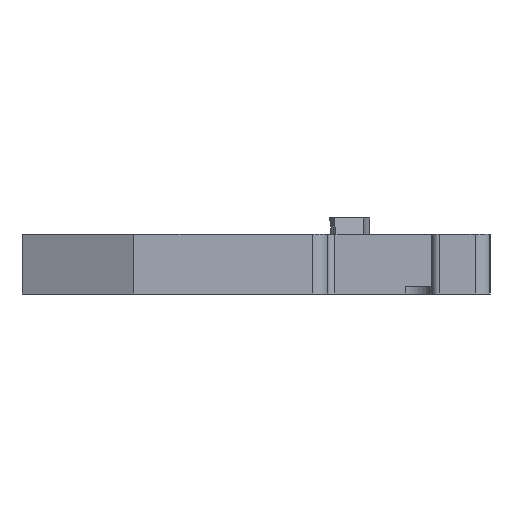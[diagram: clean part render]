
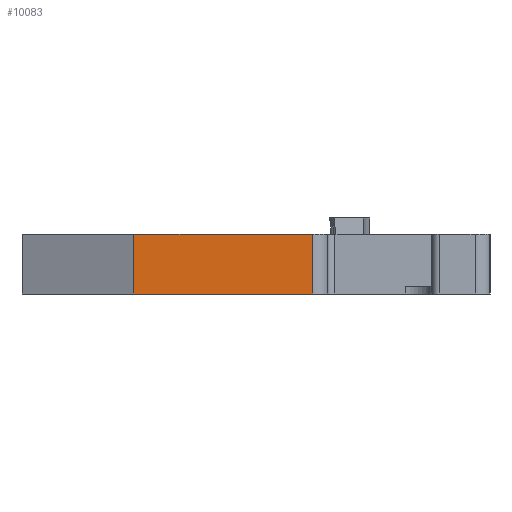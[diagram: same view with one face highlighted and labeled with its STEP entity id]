
A CAD part, left-side view. The second image highlights one B-rep face of the part: STEP entity #10083.
In plain terms, the highlighted planar face has unit normal (-1, 0, 0).
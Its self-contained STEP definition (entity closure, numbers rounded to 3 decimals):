
#1117 = LINE ( 'NONE', #34070, #18296 ) ;
#2324 = EDGE_LOOP ( 'NONE', ( #15613, #30309, #30946, #7164 ) ) ;
#3447 = DIRECTION ( 'NONE',  ( 0., -1., 0. ) ) ;
#7164 = ORIENTED_EDGE ( 'NONE', *, *, #16377, .T. ) ;
#10083 = ADVANCED_FACE ( 'NONE', ( #19576 ), #16533, .F. ) ;
#13043 = CARTESIAN_POINT ( 'NONE',  ( 10.027, 33.971, 42.359 ) ) ;
#14313 = CARTESIAN_POINT ( 'NONE',  ( 10.027, 45.971, 42.359 ) ) ;
#15613 = ORIENTED_EDGE ( 'NONE', *, *, #40474, .T. ) ;
#16377 = EDGE_CURVE ( 'NONE', #16741, #22257, #16717, .T. ) ;
#16533 = PLANE ( 'NONE',  #25921 ) ;
#16717 = LINE ( 'NONE', #38994, #36924 ) ;
#16741 = VERTEX_POINT ( 'NONE', #14313 ) ;
#18296 = VECTOR ( 'NONE', #37751, 1000. ) ;
#19576 = FACE_OUTER_BOUND ( 'NONE', #2324, .T. ) ;
#19708 = DIRECTION ( 'NONE',  ( 1., 0., 0. ) ) ;
#20678 = VECTOR ( 'NONE', #20809, 1000. ) ;
#20809 = DIRECTION ( 'NONE',  ( 0., -1., 0. ) ) ;
#21450 = VERTEX_POINT ( 'NONE', #13043 ) ;
#22257 = VERTEX_POINT ( 'NONE', #37855 ) ;
#22871 = DIRECTION ( 'NONE',  ( 0., 0., -1. ) ) ;
#23182 = LINE ( 'NONE', #25662, #29139 ) ;
#23550 = CARTESIAN_POINT ( 'NONE',  ( 10.027, 45.971, 42.359 ) ) ;
#24686 = CARTESIAN_POINT ( 'NONE',  ( 10.027, 33.971, 38.359 ) ) ;
#25662 = CARTESIAN_POINT ( 'NONE',  ( 10.027, 45.971, 38.359 ) ) ;
#25921 = AXIS2_PLACEMENT_3D ( 'NONE', #38573, #19708, #22871 ) ;
#26857 = DIRECTION ( 'NONE',  ( 0., 0., -1. ) ) ;
#29139 = VECTOR ( 'NONE', #3447, 1000. ) ;
#30309 = ORIENTED_EDGE ( 'NONE', *, *, #40093, .F. ) ;
#30946 = ORIENTED_EDGE ( 'NONE', *, *, #32788, .F. ) ;
#32788 = EDGE_CURVE ( 'NONE', #16741, #21450, #37414, .T. ) ;
#34070 = CARTESIAN_POINT ( 'NONE',  ( 10.027, 33.971, 42.359 ) ) ;
#35872 = VERTEX_POINT ( 'NONE', #24686 ) ;
#36924 = VECTOR ( 'NONE', #26857, 1000. ) ;
#37414 = LINE ( 'NONE', #23550, #20678 ) ;
#37751 = DIRECTION ( 'NONE',  ( 0., 0., -1. ) ) ;
#37855 = CARTESIAN_POINT ( 'NONE',  ( 10.027, 45.971, 38.359 ) ) ;
#38573 = CARTESIAN_POINT ( 'NONE',  ( 10.027, 45.971, 42.359 ) ) ;
#38994 = CARTESIAN_POINT ( 'NONE',  ( 10.027, 45.971, 42.359 ) ) ;
#40093 = EDGE_CURVE ( 'NONE', #21450, #35872, #1117, .T. ) ;
#40474 = EDGE_CURVE ( 'NONE', #22257, #35872, #23182, .T. ) ;
